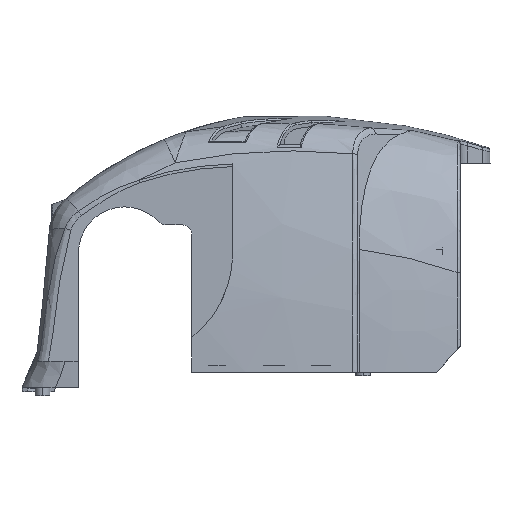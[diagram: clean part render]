
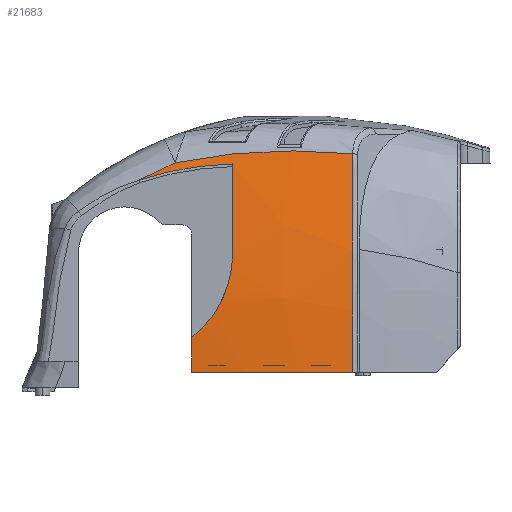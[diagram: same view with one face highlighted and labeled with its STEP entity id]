
A CAD part, left-side view. The second image highlights one B-rep face of the part: STEP entity #21683.
In plain terms, the highlighted free-form (B-spline) face has degree [3, 3] with [4, 4] control points.
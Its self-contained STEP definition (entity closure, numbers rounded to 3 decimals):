
#6258=CARTESIAN_POINT('',(-54.468,-61.185,
26.578));
#6921=CARTESIAN_POINT('',(-61.742,-61.168,
-32.));
#6991=CARTESIAN_POINT('',(304.183,-30.798,
-32.));
#6992=DIRECTION('',(0.,0.,1.));
#6993=DIRECTION('',(-0.999,0.035,0.));
#6994=AXIS2_PLACEMENT_3D('',#6991,#6992,#6993);
#6999=CARTESIAN_POINT('',(-54.468,-61.185,
26.578));
#7000=CARTESIAN_POINT('',(-55.674,-61.183,
21.796));
#7001=CARTESIAN_POINT('',(-57.791,-61.177,
12.157));
#7002=CARTESIAN_POINT('',(-60.068,-61.172,
-2.469));
#7003=CARTESIAN_POINT('',(-61.437,-61.169,
-17.206));
#7004=CARTESIAN_POINT('',(-61.742,-61.168,
-27.069));
#7005=CARTESIAN_POINT('',(-61.742,-61.168,
-32.));
#7010=CARTESIAN_POINT('',(-62.598,-18.001,
-22.738));
#7011=CARTESIAN_POINT('',(-62.603,-19.136,
-21.839));
#7012=CARTESIAN_POINT('',(-62.581,-21.272,
-19.87));
#7013=CARTESIAN_POINT('',(-62.447,-24.003,
-16.47));
#7014=CARTESIAN_POINT('',(-62.206,-26.204,
-12.676));
#7015=CARTESIAN_POINT('',(-61.863,-27.797,
-8.639));
#7016=CARTESIAN_POINT('',(-61.416,-28.779,
-4.379));
#7017=CARTESIAN_POINT('',(-61.052,-29.,-1.462));
#7018=CARTESIAN_POINT('',(-60.856,-29.,0.));
#7023=CARTESIAN_POINT('',(-56.418,-29.,
23.847));
#7024=CARTESIAN_POINT('',(-56.419,-26.048,
23.78));
#7025=CARTESIAN_POINT('',(-56.418,-20.248,
23.364));
#7026=CARTESIAN_POINT('',(-56.42,-11.804,
21.869));
#7027=CARTESIAN_POINT('',(-56.421,-6.437,
20.343));
#7028=CARTESIAN_POINT('',(-56.423,-3.81,
19.443));
#7033=CARTESIAN_POINT('',(-56.423,-3.81,
19.443));
#7034=CARTESIAN_POINT('',(-56.271,-6.96,
21.207));
#7035=CARTESIAN_POINT('',(-56.105,-10.212,
22.786));
#7036=CARTESIAN_POINT('',(-55.932,-13.543,
24.17));
#7041=CARTESIAN_POINT('',(-55.932,-13.543,
24.17));
#7042=CARTESIAN_POINT('',(-55.918,-17.433,
25.002));
#7043=CARTESIAN_POINT('',(-55.845,-25.3,
26.31));
#7044=CARTESIAN_POINT('',(-55.484,-41.222,
27.658));
#7045=CARTESIAN_POINT('',(-54.947,-53.24,
27.347));
#7046=CARTESIAN_POINT('',(-54.468,-61.185,
26.578));
#7058=CARTESIAN_POINT('',(-62.598,-18.001,
-22.738));
#7059=CARTESIAN_POINT('',(-62.638,-18.001,
-23.766));
#7060=CARTESIAN_POINT('',(-62.704,-17.999,
-25.824));
#7061=CARTESIAN_POINT('',(-62.764,-18.,
-28.912));
#7062=CARTESIAN_POINT('',(-62.777,-18.,-30.971));
#7063=CARTESIAN_POINT('',(-62.777,-18.,-32.));
#8332=CARTESIAN_POINT('',(-56.423,-3.81,
19.443));
#8399=CARTESIAN_POINT('',(-55.932,-13.543,
24.17));
#8427=CARTESIAN_POINT('',(-56.418,-29.,
23.847));
#8428=CARTESIAN_POINT('',(-57.045,-29.,
21.224));
#8429=CARTESIAN_POINT('',(-58.209,-29.,
15.959));
#8430=CARTESIAN_POINT('',(-59.689,-29.,
8.004));
#8431=CARTESIAN_POINT('',(-60.497,-29.,2.673));
#8432=CARTESIAN_POINT('',(-60.856,-29.,0.));
#12777=VERTEX_POINT('',#8332);
#12778=VERTEX_POINT('',#8399);
#12842=VERTEX_POINT('',#6921);
#12858=CARTESIAN_POINT('',(-62.777,-18.,-32.));
#12859=VERTEX_POINT('',#12858);
#12866=CARTESIAN_POINT('',(-62.598,-18.001,
-22.738));
#12867=VERTEX_POINT('',#12866);
#13093=VERTEX_POINT('',#6258);
#13308=VERTEX_POINT('',#7018);
#13309=VERTEX_POINT('',#8427);
#21651=CARTESIAN_POINT('',(-53.876,-62.283,
28.517));
#21652=CARTESIAN_POINT('',(-59.105,-62.743,
8.339));
#21653=CARTESIAN_POINT('',(-61.689,-62.971,
-12.35));
#21654=CARTESIAN_POINT('',(-61.586,-62.961,
-33.2));
#21655=CARTESIAN_POINT('',(-55.616,-42.497,
28.517));
#21656=CARTESIAN_POINT('',(-60.87,-42.667,
8.339));
#21657=CARTESIAN_POINT('',(-63.467,-42.752,
-12.35));
#21658=CARTESIAN_POINT('',(-63.363,-42.748,
-33.2));
#21659=CARTESIAN_POINT('',(-55.713,-22.634,
28.517));
#21660=CARTESIAN_POINT('',(-60.969,-22.514,
8.339));
#21661=CARTESIAN_POINT('',(-63.567,-22.455,
-12.35));
#21662=CARTESIAN_POINT('',(-63.463,-22.458,
-33.2));
#21663=CARTESIAN_POINT('',(-54.168,-2.831,
28.517));
#21664=CARTESIAN_POINT('',(-59.401,-2.422,
8.339));
#21665=CARTESIAN_POINT('',(-61.988,-2.22,
-12.35));
#21666=CARTESIAN_POINT('',(-61.884,-2.228,
-33.2));
#21667=(BOUNDED_SURFACE()B_SPLINE_SURFACE(3,3,((#21651,#21652,#21653,#21654),(
#21655,#21656,#21657,#21658),(#21659,#21660,#21661,#21662),(#21663,#21664,
#21665,#21666)),.UNSPECIFIED.,.F.,.F.,.F.)B_SPLINE_SURFACE_WITH_KNOTS((4,4),(4,
4),(0.,1.),(0.,1.),.UNSPECIFIED.)GEOMETRIC_REPRESENTATION_ITEM()RATIONAL_B_SPLINE_SURFACE(((1.006,1.,1.,
1.006),(1.004,0.998,0.998,
1.004),(1.004,0.998,0.998,
1.004),(1.006,1.,1.,
1.006)))REPRESENTATION_ITEM('')SURFACE());
#21668=ORIENTED_EDGE('',*,*,#21644,.T.);
#21669=ORIENTED_EDGE('',*,*,#21565,.F.);
#21671=ORIENTED_EDGE('',*,*,#21670,.F.);
#21673=ORIENTED_EDGE('',*,*,#21672,.T.);
#21675=ORIENTED_EDGE('',*,*,#21674,.F.);
#21677=ORIENTED_EDGE('',*,*,#21676,.T.);
#21679=ORIENTED_EDGE('',*,*,#21678,.T.);
#21680=ORIENTED_EDGE('',*,*,#20302,.T.);
#21681=EDGE_LOOP('',(#21668,#21669,#21671,#21673,#21675,#21677,#21679,#21680));
#21682=FACE_OUTER_BOUND('',#21681,.F.);
#6995=CIRCLE('',#6994,367.183);
#7006=B_SPLINE_CURVE_WITH_KNOTS('',3,(#6999,#7000,#7001,#7002,#7003,#7004,
#7005),.UNSPECIFIED.,.F.,.F.,(4,1,1,1,4),(0.,0.25,0.5,0.75,1.),
.UNSPECIFIED.);
#7019=B_SPLINE_CURVE_WITH_KNOTS('',3,(#7010,#7011,#7012,#7013,#7014,#7015,#7016,
#7017,#7018),.UNSPECIFIED.,.F.,.F.,(4,1,1,1,1,1,4),(0.,0.167,
0.333,0.5,0.667,0.833,1.),
.UNSPECIFIED.);
#7029=B_SPLINE_CURVE_WITH_KNOTS('',3,(#7023,#7024,#7025,#7026,#7027,#7028),
.UNSPECIFIED.,.F.,.F.,(4,1,1,4),(0.,0.333,0.667,1.),
.UNSPECIFIED.);
#7037=B_SPLINE_CURVE_WITH_KNOTS('',3,(#7033,#7034,#7035,#7036),.UNSPECIFIED.,
.F.,.F.,(4,4),(0.,1.),.UNSPECIFIED.);
#7047=B_SPLINE_CURVE_WITH_KNOTS('',3,(#7041,#7042,#7043,#7044,#7045,#7046),
.UNSPECIFIED.,.F.,.F.,(4,1,1,4),(0.,0.25,0.5,1.),.UNSPECIFIED.);
#7064=B_SPLINE_CURVE_WITH_KNOTS('',3,(#7058,#7059,#7060,#7061,#7062,#7063),
.UNSPECIFIED.,.F.,.F.,(4,1,1,4),(0.,0.333,0.667,1.),
.UNSPECIFIED.);
#8433=B_SPLINE_CURVE_WITH_KNOTS('',3,(#8427,#8428,#8429,#8430,#8431,#8432),
.UNSPECIFIED.,.F.,.F.,(4,1,1,4),(0.,0.333,0.667,1.),
.UNSPECIFIED.);
#20302=EDGE_CURVE('',#12778,#13093,#7047,.T.);
#21565=EDGE_CURVE('',#12859,#12842,#6995,.T.);
#21644=EDGE_CURVE('',#13093,#12842,#7006,.T.);
#21670=EDGE_CURVE('',#12867,#12859,#7064,.T.);
#21672=EDGE_CURVE('',#12867,#13308,#7019,.T.);
#21674=EDGE_CURVE('',#13309,#13308,#8433,.T.);
#21676=EDGE_CURVE('',#13309,#12777,#7029,.T.);
#21678=EDGE_CURVE('',#12777,#12778,#7037,.T.);
#21683=ADVANCED_FACE('',(#21682),#21667,.T.);
